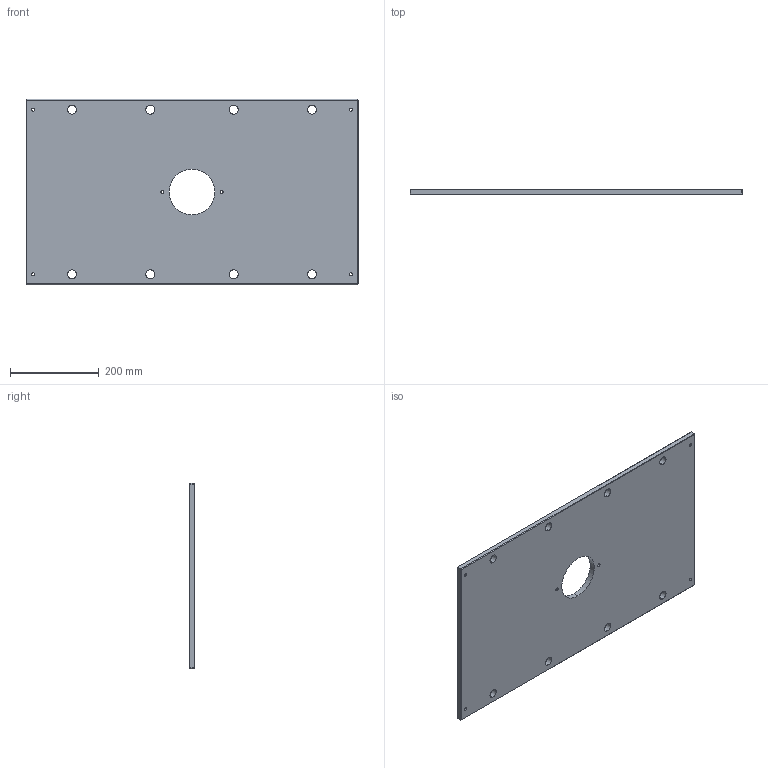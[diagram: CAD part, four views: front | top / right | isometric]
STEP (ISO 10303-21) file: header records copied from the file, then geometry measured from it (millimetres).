
FILE_DESCRIPTION (( 'STEP AP214' ), '1' );
FILE_NAME ('ME-0619-CH-1729.STEP', '2020-02-13T09:17:51', ( '' ), ( '' ), 'SwSTEP 2.0', 'SolidWorks 2018', '' );
FILE_SCHEMA (( 'AUTOMOTIVE_DESIGN' ));
Length unit declared in the file: inch
Products named in the file (1): ME-0619-CH-1729
Bounding box: 746.12 x 12.7 x 415.93 mm (x, y, z)
Volume: 3795790.4 mm3; surface area: 636501.8 mm2
Topology: 1 solids, 1 shells, 68 faces, 162 edges, 96 vertices
Faces by surface type: cylinder 30, plane 26, cone 12
Entity records: 2050 total; most frequent: DIRECTION 372, CARTESIAN_POINT 327, ORIENTED_EDGE 324, EDGE_CURVE 162, AXIS2_PLACEMENT_3D 141, EDGE_LOOP 98, VERTEX_POINT 96, VECTOR 90
